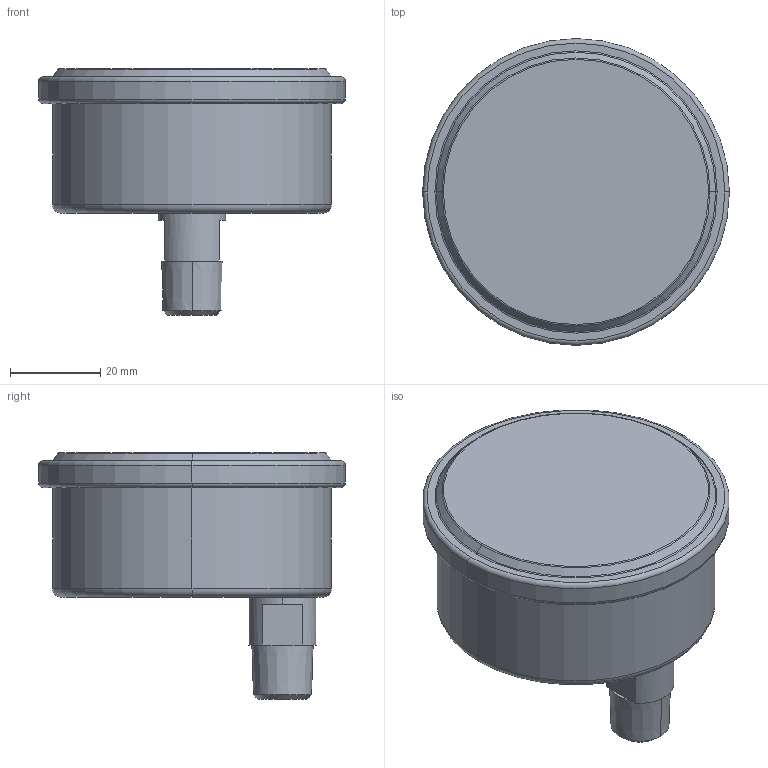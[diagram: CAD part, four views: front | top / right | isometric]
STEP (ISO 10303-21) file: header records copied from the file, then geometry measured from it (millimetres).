
FILE_DESCRIPTION (( 'STEP AP203' ), '1' );
FILE_NAME ('JGBxx1.step', '2010-03-15T09:07:33', ( ' ' ), ( ' ' ), 'SwSTEP 2.0', 'SolidWorks 2009', '' );
FILE_SCHEMA (( 'CONFIG_CONTROL_DESIGN' ));
Length unit declared in the file: millimetre
Products named in the file (3): JGBxx1; JGB16-1; JGB16-2
Assembly tree (2 placements, depth 2):
  JGBxx1
    JGB16-1
    JGB16-2
Bounding box: 67.8 x 67.8 x 54.5 mm (x, y, z)
Volume: 101945.6 mm3; surface area: 14205.7 mm2
Topology: 2 solids, 2 shells, 33 faces, 66 edges, 40 vertices
Faces by surface type: plane 11, torus 10, cylinder 6, cone 6
Entity records: 1175 total; most frequent: DIRECTION 188, CARTESIAN_POINT 144, ORIENTED_EDGE 132, AXIS2_PLACEMENT_3D 84, EDGE_CURVE 66, CIRCLE 46, VERTEX_POINT 40, EDGE_LOOP 36
